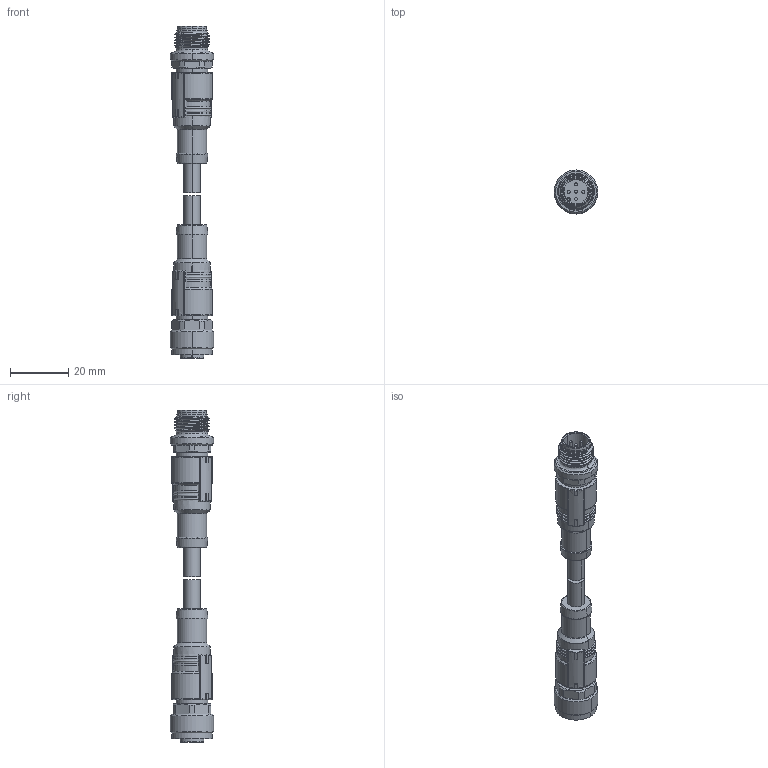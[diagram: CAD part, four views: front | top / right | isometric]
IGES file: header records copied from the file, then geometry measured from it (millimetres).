
Start section:  PTC IGES file: c-t4162123005-005-a-3d.igs
Global section: file name: c-t4162123005-005-a-3d.igs; native system: Creo Parametric by PTC Inc.; preprocessor: 2016050; author: workeradm; organization: Unknown; units: millimetre
Bounding box: 15 x 15 x 114.1 mm (x, y, z)
Surface area: 5817.8 mm2 (no closed solid volume)
Topology: 0 solids, 0 shells, 442 faces, 2014 edges, 2014 vertices
Faces by surface type: revolution 313, bspline 129
